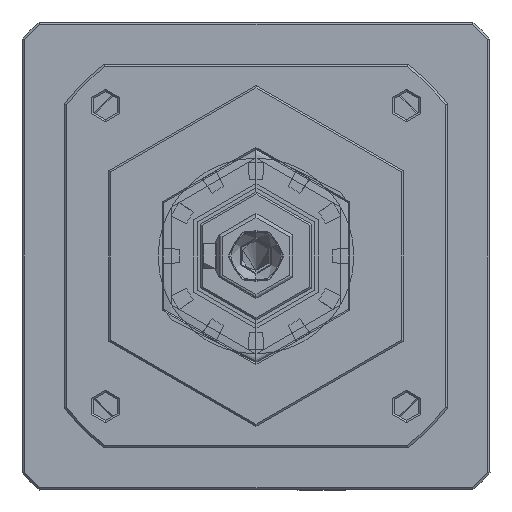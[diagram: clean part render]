
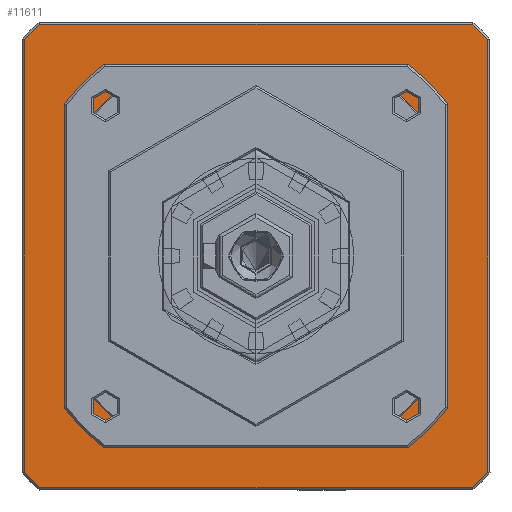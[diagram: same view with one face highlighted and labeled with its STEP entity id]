
A CAD part, left-side view. The second image highlights one B-rep face of the part: STEP entity #11611.
In plain terms, the highlighted planar face has unit normal (-1, 0, 0).
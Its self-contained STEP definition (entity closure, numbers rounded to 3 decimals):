
#293 = LINE ( 'NONE', #66316, #58247 ) ;
#321 = VERTEX_POINT ( 'NONE', #96361 ) ;
#528 = DIRECTION ( 'NONE',  ( 0., 0., -1. ) ) ;
#649 = DIRECTION ( 'NONE',  ( 1., 0., 0. ) ) ;
#3064 = CARTESIAN_POINT ( 'NONE',  ( 124.5, 0., 0. ) ) ;
#3390 = CARTESIAN_POINT ( 'NONE',  ( 124.5, 54.5, 50.794 ) ) ;
#4646 = VERTEX_POINT ( 'NONE', #41193 ) ;
#4842 = LINE ( 'NONE', #76811, #52187 ) ;
#5432 = AXIS2_PLACEMENT_3D ( 'NONE', #68680, #649, #83236 ) ;
#5547 = CARTESIAN_POINT ( 'NONE',  ( 124.5, -50.794, -54.5 ) ) ;
#6527 = CARTESIAN_POINT ( 'NONE',  ( 124.5, 0., 0. ) ) ;
#7357 = EDGE_CURVE ( 'NONE', #34402, #78117, #81053, .T. ) ;
#7956 = VERTEX_POINT ( 'NONE', #32667 ) ;
#8410 = DIRECTION ( 'NONE',  ( 0., 0., -1. ) ) ;
#9233 = EDGE_CURVE ( 'NONE', #7956, #14676, #4842, .T. ) ;
#9295 = FACE_OUTER_BOUND ( 'NONE', #40152, .T. ) ;
#9344 = DIRECTION ( 'NONE',  ( 0., 0., 1. ) ) ;
#9895 = DIRECTION ( 'NONE',  ( 0., 0., 1. ) ) ;
#10663 = DIRECTION ( 'NONE',  ( 0., 0., -1. ) ) ;
#10697 = DIRECTION ( 'NONE',  ( 0., -1., 0. ) ) ;
#11611 = ADVANCED_FACE ( 'NONE', ( #49517, #9295 ), #95330, .F. ) ;
#12372 = DIRECTION ( 'NONE',  ( 0., 0., -1. ) ) ;
#13130 = CARTESIAN_POINT ( 'NONE',  ( 124.5, -50.794, 54.5 ) ) ;
#13748 = AXIS2_PLACEMENT_3D ( 'NONE', #19071, #79480, #65240 ) ;
#14676 = VERTEX_POINT ( 'NONE', #33781 ) ;
#15520 = EDGE_CURVE ( 'NONE', #37361, #321, #72588, .T. ) ;
#16200 = EDGE_CURVE ( 'NONE', #41719, #14676, #66508, .T. ) ;
#19071 = CARTESIAN_POINT ( 'NONE',  ( 124.5, -54.5, 54.5 ) ) ;
#19138 = ORIENTED_EDGE ( 'NONE', *, *, #7357, .T. ) ;
#20574 = CARTESIAN_POINT ( 'NONE',  ( 124.5, -44.5, 23.875 ) ) ;
#21539 = CARTESIAN_POINT ( 'NONE',  ( 124.5, -54.5, 50.794 ) ) ;
#21565 = AXIS2_PLACEMENT_3D ( 'NONE', #39150, #46408, #53026 ) ;
#22350 = DIRECTION ( 'NONE',  ( -1., 0., 0. ) ) ;
#22534 = VERTEX_POINT ( 'NONE', #47025 ) ;
#23358 = EDGE_CURVE ( 'NONE', #89922, #22534, #25865, .T. ) ;
#23850 = CARTESIAN_POINT ( 'NONE',  ( 124.5, 0., 0. ) ) ;
#25865 = LINE ( 'NONE', #66978, #90775 ) ;
#25947 = CARTESIAN_POINT ( 'NONE',  ( 124.5, 0., -44.5 ) ) ;
#26058 = VERTEX_POINT ( 'NONE', #49657 ) ;
#26628 = ORIENTED_EDGE ( 'NONE', *, *, #44966, .F. ) ;
#27936 = CARTESIAN_POINT ( 'NONE',  ( 124.5, 0., 0. ) ) ;
#31130 = AXIS2_PLACEMENT_3D ( 'NONE', #92462, #63398, #9895 ) ;
#31455 = DIRECTION ( 'NONE',  ( -1., 0., 0. ) ) ;
#31620 = DIRECTION ( 'NONE',  ( 0., 1., 0. ) ) ;
#31626 = ORIENTED_EDGE ( 'NONE', *, *, #15520, .F. ) ;
#31771 = CIRCLE ( 'NONE', #96909, 74.5 ) ;
#32667 = CARTESIAN_POINT ( 'NONE',  ( 124.5, -23.875, 44.5 ) ) ;
#33781 = CARTESIAN_POINT ( 'NONE',  ( 124.5, 23.875, 44.5 ) ) ;
#34280 = CARTESIAN_POINT ( 'NONE',  ( 124.5, 0., -54.5 ) ) ;
#34292 = EDGE_CURVE ( 'NONE', #50525, #42944, #43049, .T. ) ;
#34402 = VERTEX_POINT ( 'NONE', #3390 ) ;
#35174 = VERTEX_POINT ( 'NONE', #5547 ) ;
#36194 = ORIENTED_EDGE ( 'NONE', *, *, #9233, .F. ) ;
#37361 = VERTEX_POINT ( 'NONE', #60303 ) ;
#37685 = CARTESIAN_POINT ( 'NONE',  ( 124.5, 44.5, 23.875 ) ) ;
#39150 = CARTESIAN_POINT ( 'NONE',  ( 124.5, 0., 0. ) ) ;
#39846 = EDGE_CURVE ( 'NONE', #321, #88377, #67280, .T. ) ;
#40121 = CIRCLE ( 'NONE', #31130, 50.5 ) ;
#40152 = EDGE_LOOP ( 'NONE', ( #45314, #19138, #56553, #42731, #84084, #66137, #55110, #42978 ) ) ;
#41193 = CARTESIAN_POINT ( 'NONE',  ( 124.5, 44.5, -23.875 ) ) ;
#41719 = VERTEX_POINT ( 'NONE', #37685 ) ;
#42610 = CARTESIAN_POINT ( 'NONE',  ( 124.5, 50.794, -54.5 ) ) ;
#42731 = ORIENTED_EDGE ( 'NONE', *, *, #59941, .T. ) ;
#42944 = VERTEX_POINT ( 'NONE', #21539 ) ;
#42978 = ORIENTED_EDGE ( 'NONE', *, *, #23358, .T. ) ;
#43049 = LINE ( 'NONE', #96967, #65458 ) ;
#44966 = EDGE_CURVE ( 'NONE', #41719, #4646, #293, .T. ) ;
#45314 = ORIENTED_EDGE ( 'NONE', *, *, #63966, .T. ) ;
#46060 = CARTESIAN_POINT ( 'NONE',  ( 124.5, 0., 0. ) ) ;
#46101 = DIRECTION ( 'NONE',  ( -1., 0., 0. ) ) ;
#46408 = DIRECTION ( 'NONE',  ( 1., 0., 0. ) ) ;
#47025 = CARTESIAN_POINT ( 'NONE',  ( 124.5, 50.794, 54.5 ) ) ;
#47638 = EDGE_CURVE ( 'NONE', #7956, #88377, #80878, .T. ) ;
#48767 = EDGE_CURVE ( 'NONE', #26058, #37361, #91285, .T. ) ;
#49517 = FACE_BOUND ( 'NONE', #60786, .T. ) ;
#49657 = CARTESIAN_POINT ( 'NONE',  ( 124.5, 23.875, -44.5 ) ) ;
#50098 = DIRECTION ( 'NONE',  ( 0., -1., 0. ) ) ;
#50525 = VERTEX_POINT ( 'NONE', #65787 ) ;
#50593 = AXIS2_PLACEMENT_3D ( 'NONE', #3064, #55932, #10663 ) ;
#52187 = VECTOR ( 'NONE', #31620, 1000. ) ;
#52214 = EDGE_CURVE ( 'NONE', #35174, #50525, #52864, .T. ) ;
#52864 = CIRCLE ( 'NONE', #50593, 74.5 ) ;
#53026 = DIRECTION ( 'NONE',  ( 0., 0., 1. ) ) ;
#53645 = CARTESIAN_POINT ( 'NONE',  ( 124.5, -44.5, 0. ) ) ;
#55110 = ORIENTED_EDGE ( 'NONE', *, *, #56975, .T. ) ;
#55932 = DIRECTION ( 'NONE',  ( -1., 0., 0. ) ) ;
#56553 = ORIENTED_EDGE ( 'NONE', *, *, #66607, .T. ) ;
#56975 = EDGE_CURVE ( 'NONE', #42944, #89922, #64742, .T. ) ;
#58247 = VECTOR ( 'NONE', #81176, 1000. ) ;
#58629 = VECTOR ( 'NONE', #68726, 1000. ) ;
#59142 = CIRCLE ( 'NONE', #78358, 74.5 ) ;
#59941 = EDGE_CURVE ( 'NONE', #92599, #35174, #85638, .T. ) ;
#60303 = CARTESIAN_POINT ( 'NONE',  ( 124.5, -23.875, -44.5 ) ) ;
#60786 = EDGE_LOOP ( 'NONE', ( #79725, #36194, #69349, #87506, #31626, #88904, #75260, #26628 ) ) ;
#63398 = DIRECTION ( 'NONE',  ( -1., 0., 0. ) ) ;
#63966 = EDGE_CURVE ( 'NONE', #22534, #34402, #59142, .T. ) ;
#64742 = CIRCLE ( 'NONE', #86902, 74.5 ) ;
#65240 = DIRECTION ( 'NONE',  ( 0., 0., -1. ) ) ;
#65458 = VECTOR ( 'NONE', #74489, 1000. ) ;
#65787 = CARTESIAN_POINT ( 'NONE',  ( 124.5, -54.5, -50.794 ) ) ;
#66137 = ORIENTED_EDGE ( 'NONE', *, *, #34292, .T. ) ;
#66316 = CARTESIAN_POINT ( 'NONE',  ( 124.5, 44.5, 0. ) ) ;
#66508 = CIRCLE ( 'NONE', #21565, 50.5 ) ;
#66607 = EDGE_CURVE ( 'NONE', #78117, #92599, #31771, .T. ) ;
#66978 = CARTESIAN_POINT ( 'NONE',  ( 124.5, 0., 54.5 ) ) ;
#67280 = LINE ( 'NONE', #53645, #88517 ) ;
#68680 = CARTESIAN_POINT ( 'NONE',  ( 124.5, 0., 0. ) ) ;
#68726 = DIRECTION ( 'NONE',  ( 0., 0., -1. ) ) ;
#69349 = ORIENTED_EDGE ( 'NONE', *, *, #47638, .T. ) ;
#72588 = CIRCLE ( 'NONE', #77795, 50.5 ) ;
#74489 = DIRECTION ( 'NONE',  ( 0., 0., 1. ) ) ;
#74724 = VECTOR ( 'NONE', #10697, 1000. ) ;
#75025 = VECTOR ( 'NONE', #50098, 1000. ) ;
#75260 = ORIENTED_EDGE ( 'NONE', *, *, #87248, .F. ) ;
#76811 = CARTESIAN_POINT ( 'NONE',  ( 124.5, 0., 44.5 ) ) ;
#77795 = AXIS2_PLACEMENT_3D ( 'NONE', #23850, #31455, #84223 ) ;
#78117 = VERTEX_POINT ( 'NONE', #88628 ) ;
#78358 = AXIS2_PLACEMENT_3D ( 'NONE', #6527, #46101, #528 ) ;
#79480 = DIRECTION ( 'NONE',  ( 1., 0., 0. ) ) ;
#79725 = ORIENTED_EDGE ( 'NONE', *, *, #16200, .T. ) ;
#80878 = CIRCLE ( 'NONE', #5432, 50.5 ) ;
#81053 = LINE ( 'NONE', #83902, #58629 ) ;
#81176 = DIRECTION ( 'NONE',  ( 0., 0., -1. ) ) ;
#81357 = DIRECTION ( 'NONE',  ( -1., 0., 0. ) ) ;
#83236 = DIRECTION ( 'NONE',  ( 0., 0., 1. ) ) ;
#83902 = CARTESIAN_POINT ( 'NONE',  ( 124.5, 54.5, 0. ) ) ;
#84084 = ORIENTED_EDGE ( 'NONE', *, *, #52214, .T. ) ;
#84223 = DIRECTION ( 'NONE',  ( 0., 0., 1. ) ) ;
#85638 = LINE ( 'NONE', #34280, #75025 ) ;
#86902 = AXIS2_PLACEMENT_3D ( 'NONE', #27936, #81357, #12372 ) ;
#87248 = EDGE_CURVE ( 'NONE', #4646, #26058, #40121, .T. ) ;
#87506 = ORIENTED_EDGE ( 'NONE', *, *, #39846, .F. ) ;
#88377 = VERTEX_POINT ( 'NONE', #20574 ) ;
#88517 = VECTOR ( 'NONE', #9344, 1000. ) ;
#88628 = CARTESIAN_POINT ( 'NONE',  ( 124.5, 54.5, -50.794 ) ) ;
#88904 = ORIENTED_EDGE ( 'NONE', *, *, #48767, .F. ) ;
#89922 = VERTEX_POINT ( 'NONE', #13130 ) ;
#90775 = VECTOR ( 'NONE', #96410, 1000. ) ;
#91285 = LINE ( 'NONE', #25947, #74724 ) ;
#92462 = CARTESIAN_POINT ( 'NONE',  ( 124.5, 0., 0. ) ) ;
#92599 = VERTEX_POINT ( 'NONE', #42610 ) ;
#95330 = PLANE ( 'NONE',  #13748 ) ;
#96361 = CARTESIAN_POINT ( 'NONE',  ( 124.5, -44.5, -23.875 ) ) ;
#96410 = DIRECTION ( 'NONE',  ( 0., 1., 0. ) ) ;
#96909 = AXIS2_PLACEMENT_3D ( 'NONE', #46060, #22350, #8410 ) ;
#96967 = CARTESIAN_POINT ( 'NONE',  ( 124.5, -54.5, 0. ) ) ;
